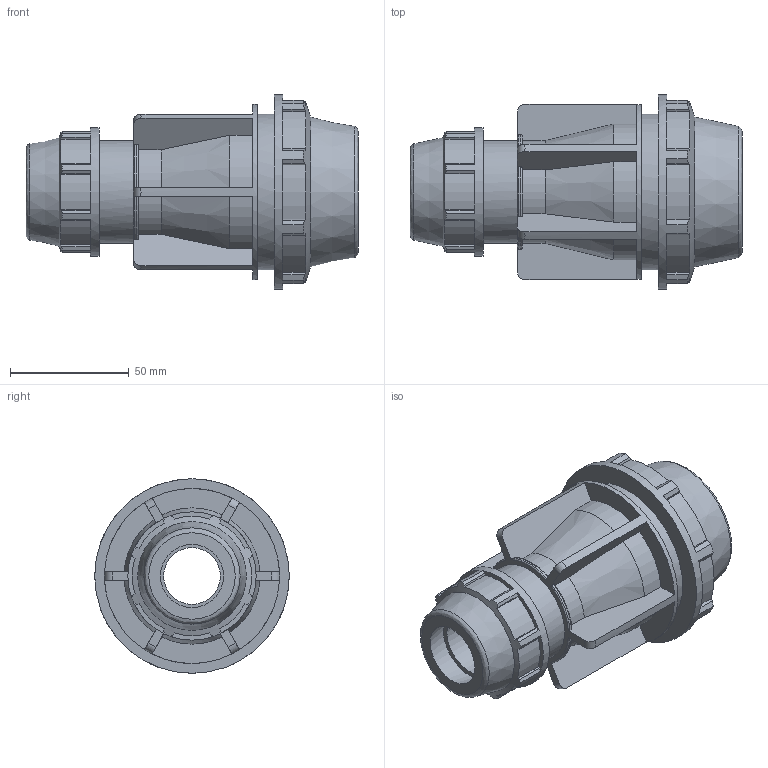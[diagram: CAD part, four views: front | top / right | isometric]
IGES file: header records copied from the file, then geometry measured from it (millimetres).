
Global section: file name: 0711M0013007.ipt; native system: Autodesk Inventor 2019; preprocessor: unknown; author: KIM; date: 20210826.124658; units: inch
Bounding box: 140 x 82.04 x 82.04 mm (x, y, z)
Volume: 218776.5 mm3; surface area: 57638.1 mm2
Topology: 1 solids, 1 shells, 218 faces, 641 edges, 432 vertices
Faces by surface type: plane 143, cylinder 45, revolution 20, cone 10
Full cylindrical faces by diameter (mm): 43.282 x1, 54.102 x1, 65.634 x1, 73.838 x1, 82.042 x1
